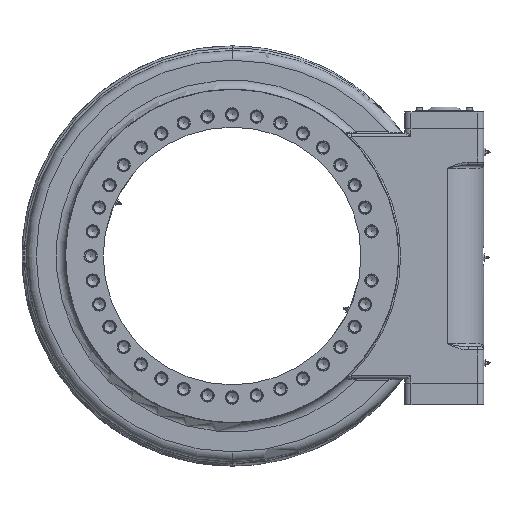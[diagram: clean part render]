
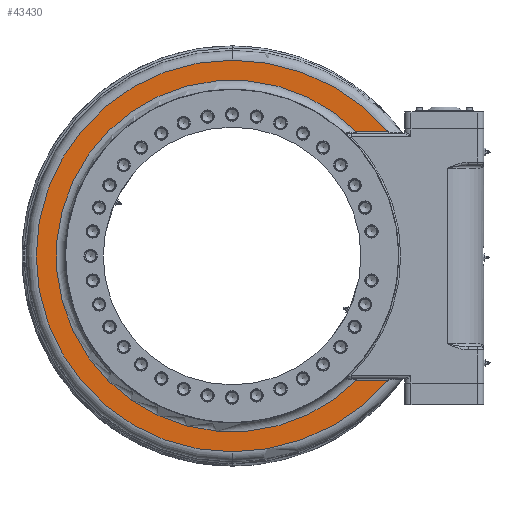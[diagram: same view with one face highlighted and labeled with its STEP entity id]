
A CAD part, left-side view. The second image highlights one B-rep face of the part: STEP entity #43430.
In plain terms, the highlighted planar face has unit normal (-1, 0, 0).
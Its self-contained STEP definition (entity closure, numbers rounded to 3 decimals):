
#252 = EDGE_CURVE ( 'NONE', #419, #16735, #21668, .T. ) ;
#419 = VERTEX_POINT ( 'NONE', #30184 ) ;
#1065 = EDGE_CURVE ( 'NONE', #44457, #419, #2812, .T. ) ;
#1144 = FACE_OUTER_BOUND ( 'NONE', #29631, .T. ) ;
#1509 = CARTESIAN_POINT ( 'NONE',  ( -43., 0., 0. ) ) ;
#2182 = CARTESIAN_POINT ( 'NONE',  ( -43., 0.013, -323. ) ) ;
#2219 = CARTESIAN_POINT ( 'NONE',  ( -43., -205.62, -204.5 ) ) ;
#2812 = LINE ( 'NONE', #42409, #8805 ) ;
#4250 = DIRECTION ( 'NONE',  ( 0., 0., 1. ) ) ;
#5272 = CARTESIAN_POINT ( 'NONE',  ( -43., 0.013, 323. ) ) ;
#5803 = DIRECTION ( 'NONE',  ( 1., 0., 0. ) ) ;
#6147 = ORIENTED_EDGE ( 'NONE', *, *, #34007, .T. ) ;
#7112 = DIRECTION ( 'NONE',  ( -1., 0., 0. ) ) ;
#8805 = VECTOR ( 'NONE', #29679, 1000. ) ;
#9446 = EDGE_CURVE ( 'NONE', #41488, #18655, #23845, .T. ) ;
#10306 = DIRECTION ( 'NONE',  ( 0., 1., 0. ) ) ;
#14418 = DIRECTION ( 'NONE',  ( 0., 0., 1. ) ) ;
#14683 = DIRECTION ( 'NONE',  ( -1., 0., 0. ) ) ;
#15150 = DIRECTION ( 'NONE',  ( 0., 0., 1. ) ) ;
#15968 = CARTESIAN_POINT ( 'NONE',  ( -43., -205.62, 204.5 ) ) ;
#16735 = VERTEX_POINT ( 'NONE', #5272 ) ;
#18052 = CIRCLE ( 'NONE', #30827, 290. ) ;
#18655 = VERTEX_POINT ( 'NONE', #48480 ) ;
#19808 = CARTESIAN_POINT ( 'NONE',  ( -43., 0.601, 0. ) ) ;
#20667 = AXIS2_PLACEMENT_3D ( 'NONE', #53455, #7112, #27822 ) ;
#21394 = CIRCLE ( 'NONE', #28124, 323. ) ;
#21668 = CIRCLE ( 'NONE', #25181, 343. ) ;
#23845 = CIRCLE ( 'NONE', #20667, 343. ) ;
#24136 = EDGE_CURVE ( 'NONE', #18655, #52859, #47926, .T. ) ;
#25181 = AXIS2_PLACEMENT_3D ( 'NONE', #40251, #14683, #48712 ) ;
#25699 = DIRECTION ( 'NONE',  ( -1., 0., 0. ) ) ;
#27822 = DIRECTION ( 'NONE',  ( 0., 0., 1. ) ) ;
#28124 = AXIS2_PLACEMENT_3D ( 'NONE', #41983, #25699, #4250 ) ;
#29631 = EDGE_LOOP ( 'NONE', ( #6147, #41072, #50792, #45937, #47371, #51440 ) ) ;
#29679 = DIRECTION ( 'NONE',  ( 0., -1., 0. ) ) ;
#30184 = CARTESIAN_POINT ( 'NONE',  ( -43., -258.723, 204.5 ) ) ;
#30827 = AXIS2_PLACEMENT_3D ( 'NONE', #1509, #5803, #14418 ) ;
#32429 = PLANE ( 'NONE',  #44188 ) ;
#34007 = EDGE_CURVE ( 'NONE', #52859, #44457, #18052, .T. ) ;
#35689 = CARTESIAN_POINT ( 'NONE',  ( -43., -208.077, -204.5 ) ) ;
#36327 = DIRECTION ( 'NONE',  ( -1., 0., 0. ) ) ;
#39386 = VECTOR ( 'NONE', #10306, 1000. ) ;
#40251 = CARTESIAN_POINT ( 'NONE',  ( -43., 0.601, -19.999 ) ) ;
#41072 = ORIENTED_EDGE ( 'NONE', *, *, #1065, .T. ) ;
#41271 = EDGE_CURVE ( 'NONE', #16735, #41488, #21394, .T. ) ;
#41488 = VERTEX_POINT ( 'NONE', #2182 ) ;
#41983 = CARTESIAN_POINT ( 'NONE',  ( -43., 0., 0. ) ) ;
#42409 = CARTESIAN_POINT ( 'NONE',  ( -43., -260.866, 204.5 ) ) ;
#43430 = ADVANCED_FACE ( 'NONE', ( #1144 ), #32429, .T. ) ;
#44188 = AXIS2_PLACEMENT_3D ( 'NONE', #19808, #36327, #15150 ) ;
#44457 = VERTEX_POINT ( 'NONE', #15968 ) ;
#45937 = ORIENTED_EDGE ( 'NONE', *, *, #41271, .T. ) ;
#47371 = ORIENTED_EDGE ( 'NONE', *, *, #9446, .T. ) ;
#47926 = LINE ( 'NONE', #35689, #39386 ) ;
#48480 = CARTESIAN_POINT ( 'NONE',  ( -43., -258.723, -204.5 ) ) ;
#48712 = DIRECTION ( 'NONE',  ( 0., 0., 1. ) ) ;
#50792 = ORIENTED_EDGE ( 'NONE', *, *, #252, .T. ) ;
#51440 = ORIENTED_EDGE ( 'NONE', *, *, #24136, .T. ) ;
#52859 = VERTEX_POINT ( 'NONE', #2219 ) ;
#53455 = CARTESIAN_POINT ( 'NONE',  ( -43., 0.601, 19.999 ) ) ;
